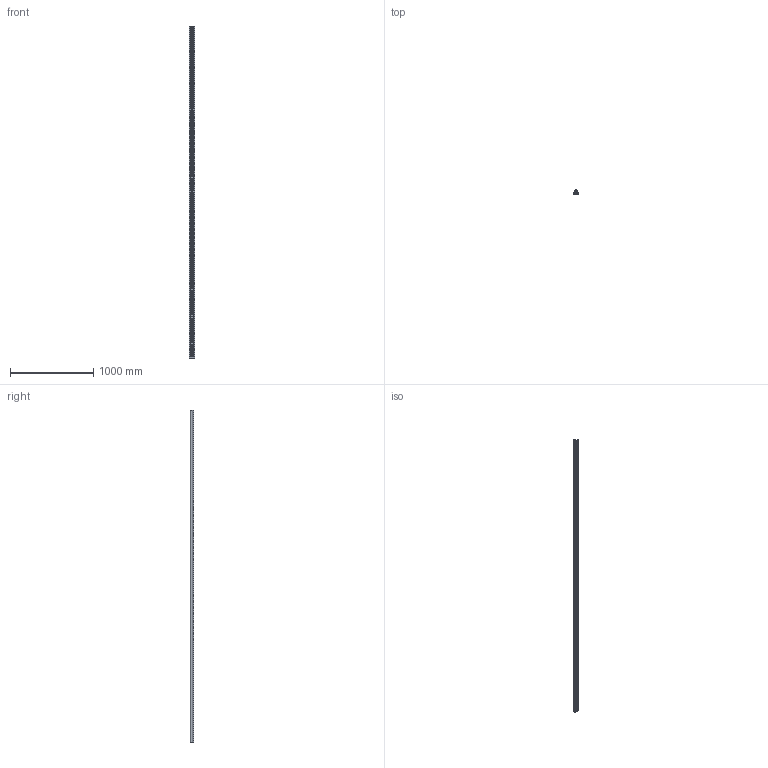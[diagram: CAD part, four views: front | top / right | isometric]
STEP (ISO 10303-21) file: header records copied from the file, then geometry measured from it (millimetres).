
FILE_DESCRIPTION(('STEP AP203'), '1');
FILE_NAME('TBS25A - Öèëèíäðè÷åñêàÿ ðåëüñîâàÿ íàïðàâëÿþùàÿ', '', ('UNSPECIFIED'), ('UNSPECIFIED'), 'ASCON STEP Converter 1.6', 'ASCON Math Kernel', '');
FILE_SCHEMA(('CONFIG_CONTROL_DESIGN'));
Length unit declared in the file: millimetre
Products named in the file (4): TBS25A
Assembly tree (22 placements, depth 2):
  TBS25A
    TBS25A
    (unnamed)
    (unnamed)  x20
Bounding box: 65 x 44.5 x 4000 mm (x, y, z)
Volume: 4974163.9 mm3; surface area: 1018192.4 mm2
Topology: 22 solids, 22 shells, 812 faces, 2264 edges, 1475 vertices
Faces by surface type: plane 550, cylinder 162, cone 100
Full cylindrical faces by diameter (mm): 4.917 x20, 5 x20, 6 x20, 6.5 x60, 10 x20, 11 x20, 25 x1
Entity records: 17720 total; most frequent: CARTESIAN_POINT 6564, ORIENTED_EDGE 2444, DIRECTION 1989, EDGE_CURVE 1222, VERTEX_POINT 883, AXIS2_PLACEMENT_3D 796, EDGE_LOOP 563, FACE_BOUND 430
